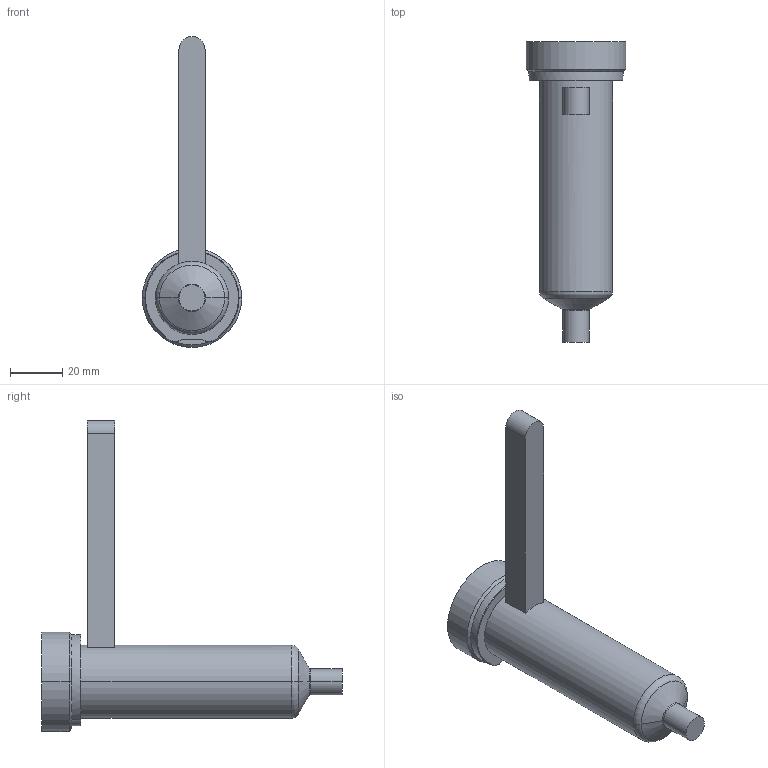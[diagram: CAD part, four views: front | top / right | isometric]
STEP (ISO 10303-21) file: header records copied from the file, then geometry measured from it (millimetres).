
FILE_DESCRIPTION((''),'2;1');
FILE_NAME('EO06_VG-FBE_WR_090_COT','2024-02-19T13:51:54',('sundharh'),(''),'CREO PARAMETRIC BY PTC INC, 2023154','CREO PARAMETRIC BY PTC INC, 2023154','');
FILE_SCHEMA(('CONFIG_CONTROL_DESIGN'));
Length unit declared in the file: millimetre
Products named in the file (1): EO06_VG-FBE_WR_090_COT
Bounding box: 38 x 115 x 119 mm (x, y, z)
Volume: 78652.9 mm3; surface area: 15126.1 mm2
Topology: 1 solids, 1 shells, 31 faces, 67 edges, 40 vertices
Faces by surface type: cylinder 11, plane 9, torus 7, cone 4
Entity records: 963 total; most frequent: CARTESIAN_POINT 230, DIRECTION 159, ORIENTED_EDGE 134, AXIS2_PLACEMENT_3D 67, EDGE_CURVE 67, VERTEX_POINT 40, CIRCLE 36, EDGE_LOOP 33
